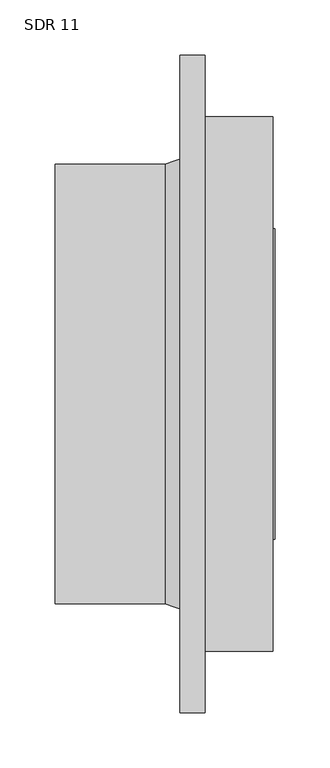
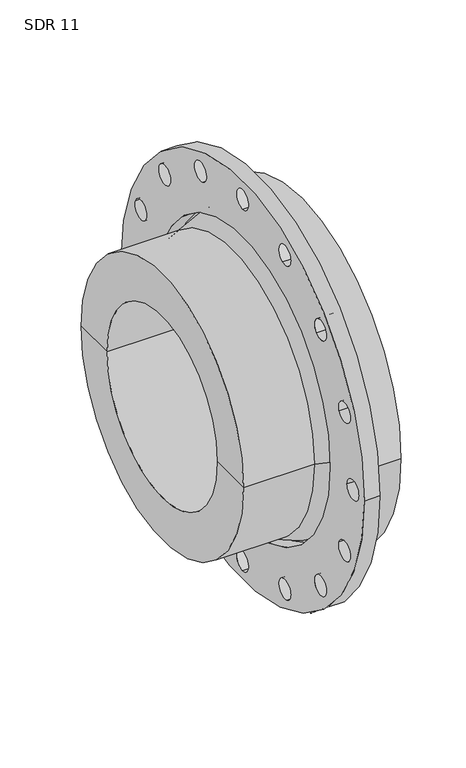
"""IFC4 building model written with IfcOpenShell, lengths in millimetres: valve geometry, Aquatherm - Flange Adapter Butt-Weld : SDR 11."""

from ifc_helpers import new_model, si_unit, point, frame, frame_2d, origin, origin_2d, place, context, project, spatial, polyline, circle_curve, trimmed, segment, composite_curve, outline, extrude, source, transform, mapped, element, save
from ifc_brep_helpers import plane_surface, cylinder_surface, revolved_surface, advanced_brep


def sdr_11_e630960a(model_context):
    return source(origin(), model_context, "Body", "SolidModel", [
        extrude(outline(composite_curve([segment(trimmed(circle_curve(origin_2d(), 298.45), [point((-298.45, 0.0))], [point((298.45, 0.0))], False, "CARTESIAN"), True, "CONTINUOUS"), segment(trimmed(circle_curve(origin_2d(), 298.45), [point((298.45, 0.0))], [point((-298.45, 0.0))], False, "CARTESIAN"), True, "CONTINUOUS")], self_intersect=False), holes=[composite_curve([segment(trimmed(circle_curve(origin_2d(), 214.63), [point((-214.63, 0.0))], [point((214.63, 0.0))], True, "CARTESIAN"), True, "CONTINUOUS"), segment(trimmed(circle_curve(origin_2d(), 214.63), [point((214.63, 0.0))], [point((-214.63, 0.0))], True, "CARTESIAN"), True, "CONTINUOUS")], self_intersect=False), composite_curve([segment(trimmed(circle_curve(frame_2d((270.51, 0.0)), 14.351), [point((256.159, 0.0))], [point((284.861, 0.0))], True, "CARTESIAN"), True, "CONTINUOUS"), segment(trimmed(circle_curve(frame_2d((270.51, 0.0)), 14.351), [point((284.861, 0.0))], [point((256.159, 0.0))], True, "CARTESIAN"), True, "CONTINUOUS")], self_intersect=False), composite_curve([segment(trimmed(circle_curve(frame_2d((249.9186523, -103.5196953)), 14.351), [point((236.6600572, -98.0278054))], [point((263.1772475, -109.0115852))], True, "CARTESIAN"), True, "CONTINUOUS"), segment(trimmed(circle_curve(frame_2d((249.9186523, -103.5196953)), 14.351), [point((263.1772475, -109.0115852))], [point((236.6600572, -98.0278054))], True, "CARTESIAN"), True, "CONTINUOUS")], self_intersect=False), composite_curve([segment(trimmed(circle_curve(frame_2d((249.9186523, 103.5196953)), 14.351), [point((236.6600572, 98.0278054))], [point((263.1772475, 109.0115852))], True, "CARTESIAN"), True, "CONTINUOUS"), segment(trimmed(circle_curve(frame_2d((249.9186523, 103.5196953)), 14.351), [point((263.1772475, 109.0115852))], [point((236.6600572, 98.0278054))], True, "CARTESIAN"), True, "CONTINUOUS")], self_intersect=False), composite_curve([segment(trimmed(circle_curve(frame_2d((191.2794554, 191.2794554)), 14.351), [point((181.131766, 181.131766))], [point((201.4271448, 201.4271448))], True, "CARTESIAN"), True, "CONTINUOUS"), segment(trimmed(circle_curve(frame_2d((191.2794554, 191.2794554)), 14.351), [point((201.4271448, 201.4271448))], [point((181.131766, 181.131766))], True, "CARTESIAN"), True, "CONTINUOUS")], self_intersect=False), composite_curve([segment(trimmed(circle_curve(frame_2d((103.5196953, 249.9186523)), 14.351), [point((98.0278054, 236.6600572))], [point((109.0115852, 263.1772475))], True, "CARTESIAN"), True, "CONTINUOUS"), segment(trimmed(circle_curve(frame_2d((103.5196953, 249.9186523)), 14.351), [point((109.0115852, 263.1772475))], [point((98.0278054, 236.6600572))], True, "CARTESIAN"), True, "CONTINUOUS")], self_intersect=False), composite_curve([segment(trimmed(circle_curve(frame_2d((0.0, 270.51)), 14.351), [point((0.0, 256.159))], [point((0.0, 284.861))], True, "CARTESIAN"), True, "CONTINUOUS"), segment(trimmed(circle_curve(frame_2d((0.0, 270.51)), 14.351), [point((0.0, 284.861))], [point((0.0, 256.159))], True, "CARTESIAN"), True, "CONTINUOUS")], self_intersect=False), composite_curve([segment(trimmed(circle_curve(frame_2d((-103.5196953, 249.9186523)), 14.351), [point((-98.0278054, 236.6600572))], [point((-109.0115852, 263.1772475))], True, "CARTESIAN"), True, "CONTINUOUS"), segment(trimmed(circle_curve(frame_2d((-103.5196953, 249.9186523)), 14.351), [point((-109.0115852, 263.1772475))], [point((-98.0278054, 236.6600572))], True, "CARTESIAN"), True, "CONTINUOUS")], self_intersect=False), composite_curve([segment(trimmed(circle_curve(frame_2d((-191.2794554, 191.2794554)), 14.351), [point((-181.131766, 181.131766))], [point((-201.4271448, 201.4271448))], True, "CARTESIAN"), True, "CONTINUOUS"), segment(trimmed(circle_curve(frame_2d((-191.2794554, 191.2794554)), 14.351), [point((-201.4271448, 201.4271448))], [point((-181.131766, 181.131766))], True, "CARTESIAN"), True, "CONTINUOUS")], self_intersect=False), composite_curve([segment(trimmed(circle_curve(frame_2d((-249.9186523, 103.5196953)), 14.351), [point((-236.6600572, 98.0278054))], [point((-263.1772475, 109.0115852))], True, "CARTESIAN"), True, "CONTINUOUS"), segment(trimmed(circle_curve(frame_2d((-249.9186523, 103.5196953)), 14.351), [point((-263.1772475, 109.0115852))], [point((-236.6600572, 98.0278054))], True, "CARTESIAN"), True, "CONTINUOUS")], self_intersect=False), composite_curve([segment(trimmed(circle_curve(frame_2d((-270.51, 0.0)), 14.351), [point((-256.159, 0.0))], [point((-284.861, 0.0))], True, "CARTESIAN"), True, "CONTINUOUS"), segment(trimmed(circle_curve(frame_2d((-270.51, 0.0)), 14.351), [point((-284.861, 0.0))], [point((-256.159, 0.0))], True, "CARTESIAN"), True, "CONTINUOUS")], self_intersect=False), composite_curve([segment(trimmed(circle_curve(frame_2d((-249.9186523, -103.5196953)), 14.351), [point((-236.6600572, -98.0278054))], [point((-263.1772475, -109.0115852))], True, "CARTESIAN"), True, "CONTINUOUS"), segment(trimmed(circle_curve(frame_2d((-249.9186523, -103.5196953)), 14.351), [point((-263.1772475, -109.0115852))], [point((-236.6600572, -98.0278054))], True, "CARTESIAN"), True, "CONTINUOUS")], self_intersect=False), composite_curve([segment(trimmed(circle_curve(frame_2d((-191.2794554, -191.2794554)), 14.351), [point((-181.131766, -181.131766))], [point((-201.4271448, -201.4271448))], True, "CARTESIAN"), True, "CONTINUOUS"), segment(trimmed(circle_curve(frame_2d((-191.2794554, -191.2794554)), 14.351), [point((-201.4271448, -201.4271448))], [point((-181.131766, -181.131766))], True, "CARTESIAN"), True, "CONTINUOUS")], self_intersect=False), composite_curve([segment(trimmed(circle_curve(frame_2d((-103.5196953, -249.9186523)), 14.351), [point((-98.0278054, -236.6600572))], [point((-109.0115852, -263.1772475))], True, "CARTESIAN"), True, "CONTINUOUS"), segment(trimmed(circle_curve(frame_2d((-103.5196953, -249.9186523)), 14.351), [point((-109.0115852, -263.1772475))], [point((-98.0278054, -236.6600572))], True, "CARTESIAN"), True, "CONTINUOUS")], self_intersect=False), composite_curve([segment(trimmed(circle_curve(frame_2d((0.0, -270.51)), 14.351), [point((0.0, -256.159))], [point((0.0, -284.861))], True, "CARTESIAN"), True, "CONTINUOUS"), segment(trimmed(circle_curve(frame_2d((0.0, -270.51)), 14.351), [point((0.0, -284.861))], [point((0.0, -256.159))], True, "CARTESIAN"), True, "CONTINUOUS")], self_intersect=False), composite_curve([segment(trimmed(circle_curve(frame_2d((103.5196953, -249.9186523)), 14.351), [point((98.0278054, -236.6600572))], [point((109.0115852, -263.1772475))], True, "CARTESIAN"), True, "CONTINUOUS"), segment(trimmed(circle_curve(frame_2d((103.5196953, -249.9186523)), 14.351), [point((109.0115852, -263.1772475))], [point((98.0278054, -236.6600572))], True, "CARTESIAN"), True, "CONTINUOUS")], self_intersect=False), composite_curve([segment(trimmed(circle_curve(frame_2d((191.2794554, -191.2794554)), 14.351), [point((181.131766, -181.131766))], [point((201.4271448, -201.4271448))], True, "CARTESIAN"), True, "CONTINUOUS"), segment(trimmed(circle_curve(frame_2d((191.2794554, -191.2794554)), 14.351), [point((201.4271448, -201.4271448))], [point((181.131766, -181.131766))], True, "CARTESIAN"), True, "CONTINUOUS")], self_intersect=False)]), frame((-22.352, 0.0, 0.0), z_axis=(1.0, 0.0, 0.0), x_axis=(0.0, 1.0, 0.0)), (0.0, 0.0, 1.0), 22.352),
        advanced_brep(
        [(61.976, 242.57, 0.0), (61.976, -242.57, 0.0), (0.0, -242.57, 0.0), (0.0, 242.57, 0.0), (63.5635, 135.89, 0.0), (63.5635, -135.89, 0.0), (63.5635, -140.97, 0.0), (63.5635, 140.97, 0.0), (-136.144, 135.89, 0.0), (-136.144, -135.89, 0.0), (-136.144, 199.39, 0.0), (-136.144, -199.39, 0.0), (-36.068, 199.39, 0.0), (-36.068, -199.39, 0.0), (0.0, -212.09, 0.0), (0.0, 212.09, 0.0), (61.976, 140.97, 0.0), (61.976, -140.97, 0.0)],
        [
            (0, 1, circle_curve(frame((61.976, 0.0, 0.0), z_axis=(-1.0, 0.0, 0.0), x_axis=(0.0, -1.0, 0.0)), 242.57)),
            (1, 2),
            (2, 3, circle_curve(frame((0.0, 0.0, 0.0), z_axis=(1.0, 0.0, 0.0), x_axis=(0.0, -1.0, 0.0)), 242.57)),
            (3, 0),
            (1, 0, circle_curve(frame((61.976, 0.0, 0.0), z_axis=(-1.0, 0.0, 0.0), x_axis=(0.0, -1.0, 0.0)), 242.57)),
            (3, 2, circle_curve(frame((0.0, 0.0, 0.0), z_axis=(1.0, 0.0, 0.0), x_axis=(0.0, -1.0, 0.0)), 242.57)),
            (4, 5, circle_curve(frame((63.5635, 0.0, 0.0), z_axis=(-1.0, 0.0, 0.0), x_axis=(0.0, -1.0, 0.0)), 135.89)),
            (5, 6),
            (6, 7, circle_curve(frame((63.5635, 0.0, 0.0), z_axis=(1.0, 0.0, 0.0), x_axis=(0.0, -1.0, 0.0)), 140.97)),
            (7, 4),
            (5, 4, circle_curve(frame((63.5635, 0.0, 0.0), z_axis=(-1.0, 0.0, 0.0), x_axis=(0.0, -1.0, 0.0)), 135.89)),
            (7, 6, circle_curve(frame((63.5635, 0.0, 0.0), z_axis=(1.0, 0.0, 0.0), x_axis=(0.0, -1.0, 0.0)), 140.97)),
            (8, 9, circle_curve(frame((-136.144, 0.0, 0.0), z_axis=(-1.0, 0.0, 0.0), x_axis=(0.0, -1.0, 0.0)), 135.89)),
            (9, 5),
            (4, 8),
            (9, 8, circle_curve(frame((-136.144, 0.0, 0.0), z_axis=(-1.0, 0.0, 0.0), x_axis=(0.0, -1.0, 0.0)), 135.89)),
            (10, 11, circle_curve(frame((-136.144, 0.0, 0.0), z_axis=(-1.0, 0.0, 0.0), x_axis=(0.0, -1.0, 0.0)), 199.39)),
            (11, 9),
            (8, 10),
            (11, 10, circle_curve(frame((-136.144, 0.0, 0.0), z_axis=(-1.0, 0.0, 0.0), x_axis=(0.0, -1.0, 0.0)), 199.39)),
            (12, 13, circle_curve(frame((-36.068, 0.0, 0.0), z_axis=(-1.0, 0.0, 0.0), x_axis=(0.0, -1.0, 0.0)), 199.39)),
            (13, 11),
            (10, 12),
            (13, 12, circle_curve(frame((-36.068, 0.0, 0.0), z_axis=(-1.0, 0.0, 0.0), x_axis=(0.0, -1.0, 0.0)), 199.39)),
            (2, 14),
            (14, 15, circle_curve(frame((0.0, 0.0, 0.0), z_axis=(1.0, 0.0, 0.0), x_axis=(0.0, -1.0, 0.0)), 212.09)),
            (15, 3),
            (15, 14, circle_curve(frame((0.0, 0.0, 0.0), z_axis=(1.0, 0.0, 0.0), x_axis=(0.0, -1.0, 0.0)), 212.09)),
            (16, 17, circle_curve(frame((61.976, 0.0, 0.0), z_axis=(-1.0, 0.0, 0.0), x_axis=(0.0, -1.0, 0.0)), 140.97)),
            (17, 1),
            (0, 16),
            (17, 16, circle_curve(frame((61.976, 0.0, 0.0), z_axis=(-1.0, 0.0, 0.0), x_axis=(0.0, -1.0, 0.0)), 140.97)),
            (6, 17),
            (16, 7),
            (14, 13),
            (12, 15),
        ],
        [
            cylinder_surface(frame((1502.6149321, 0.0, 0.0), z_axis=(1.0, 0.0, 0.0), x_axis=(0.0, -1.0, 0.0)), 242.57),
            plane_surface(frame((63.5635, 0.0, 0.0), z_axis=(1.0, 0.0, 0.0), x_axis=(0.0, -1.0, 0.0))),
            revolved_surface(polyline([(63.563499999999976, -135.89, 0.0), (-136.144, -135.89, 0.0)]), (1502.6149321, 0.0, 0.0), (1.0, 0.0, 0.0)),
            plane_surface(frame((-136.144, 0.0, 0.0), z_axis=(-1.0, 0.0, 0.0), x_axis=(0.0, -1.0, 0.0))),
            cylinder_surface(frame((1502.6149321, 0.0, 0.0), z_axis=(1.0, 0.0, 0.0), x_axis=(0.0, -1.0, 0.0)), 199.39),
            plane_surface(frame((0.0, 0.0, 0.0), z_axis=(-1.0, 0.0, 0.0), x_axis=(0.0, -1.0, 0.0))),
            plane_surface(frame((61.976, 0.0, 0.0), z_axis=(1.0, 0.0, 0.0), x_axis=(0.0, -1.0, 0.0))),
            cylinder_surface(frame((1502.6149321, 0.0, 0.0), z_axis=(1.0, 0.0, 0.0), x_axis=(0.0, -1.0, 0.0)), 140.97),
            revolved_surface(polyline([(-36.068, -199.39, 0.0), (0.0, -212.09, 0.0)]), (1502.6149321, 0.0, 0.0), (1.0, 0.0, 0.0)),
        ],
        [
            (0, [[1, 2, 3, 4]]),
            (0, [[5, -4, 6, -2]]),
            (1, [[7, 8, 9, 10]]),
            (1, [[11, -10, 12, -8]]),
            (2, [[13, 14, -7, 15]]),
            (2, [[16, -15, -11, -14]]),
            (3, [[17, 18, -13, 19]]),
            (3, [[20, -19, -16, -18]]),
            (4, [[21, 22, -17, 23]]),
            (4, [[24, -23, -20, -22]]),
            (5, [[-3, 25, 26, 27]]),
            (5, [[-6, -27, 28, -25]]),
            (6, [[29, 30, -1, 31]]),
            (6, [[32, -31, -5, -30]]),
            (7, [[-9, 33, -29, 34]]),
            (7, [[-12, -34, -32, -33]]),
            (8, [[-26, 35, -21, 36]]),
            (8, [[-28, -36, -24, -35]]),
        ],
    ),
    ])


if __name__ == "__main__":
    model = new_model("IFC4")
    model_context = context("Model", 3, world=origin())
    ifc_project = project(units=[si_unit("LENGTHUNIT", "METRE", prefix="MILLI")], contexts=[model_context])
    site = spatial("IfcSite", under=ifc_project)
    building = spatial("IfcBuilding", under=site)
    placement = place(None, origin())
    sdr_11_shape = sdr_11_e630960a(model_context)
    element("IfcValve", 1, ObjectType="Aquatherm - Flange Adapter Butt-Weld : SDR 11", at=placement, inside=building, context=model_context, shape_type="MappedRepresentation", body=[
        mapped(sdr_11_shape, transform((0.0, 0.0, 0.0), x_axis=(1.0, 0.0, 0.0), y_axis=(0.0, 1.0, 0.0), z_axis=(0.0, 0.0, 1.0))),
    ])
    save(model, "model.ifc")
